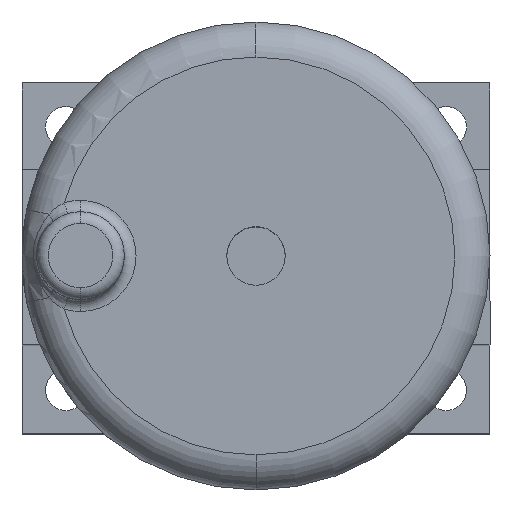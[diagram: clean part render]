
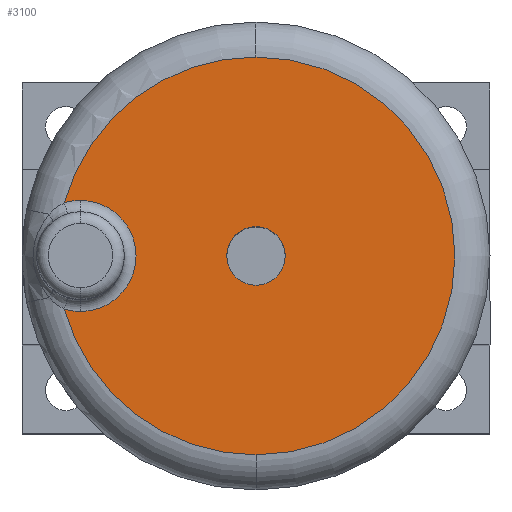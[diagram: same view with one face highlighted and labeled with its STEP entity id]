
A CAD part, top view. The second image highlights one B-rep face of the part: STEP entity #3100.
In plain terms, the highlighted planar face has unit normal (0, 0, 1) as drawn and (1, 0, 0) by its records, which use the part's own axes.
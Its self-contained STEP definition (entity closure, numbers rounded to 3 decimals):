
#141 = VERTEX_POINT ( 'NONE', #299 ) ;
#144 = ORIENTED_EDGE ( 'NONE', *, *, #1698, .T. ) ;
#150 = EDGE_CURVE ( 'NONE', #3506, #1861, #3327, .T. ) ;
#180 = AXIS2_PLACEMENT_3D ( 'NONE', #3204, #1218, #2363 ) ;
#195 = DIRECTION ( 'NONE',  ( 0., 0., 1. ) ) ;
#198 = CARTESIAN_POINT ( 'NONE',  ( 46., 0., 0. ) ) ;
#210 = DIRECTION ( 'NONE',  ( 1., 0., 0. ) ) ;
#253 = CIRCLE ( 'NONE', #3125, 9.5 ) ;
#299 = CARTESIAN_POINT ( 'NONE',  ( 46., 30., 9.5 ) ) ;
#320 = CARTESIAN_POINT ( 'NONE',  ( 46., 30., 0. ) ) ;
#381 = DIRECTION ( 'NONE',  ( 1., 0., 0. ) ) ;
#522 = CIRCLE ( 'NONE', #528, 5. ) ;
#528 = AXIS2_PLACEMENT_3D ( 'NONE', #2403, #2967, #2147 ) ;
#559 = CARTESIAN_POINT ( 'NONE',  ( 46., 0., 0. ) ) ;
#801 = CIRCLE ( 'NONE', #2145, 5. ) ;
#827 = DIRECTION ( 'NONE',  ( 0., 0., 1. ) ) ;
#848 = CIRCLE ( 'NONE', #980, 9.5 ) ;
#855 = ORIENTED_EDGE ( 'NONE', *, *, #3592, .F. ) ;
#868 = DIRECTION ( 'NONE',  ( 0., 0., 1. ) ) ;
#941 = CIRCLE ( 'NONE', #1541, 34. ) ;
#965 = EDGE_LOOP ( 'NONE', ( #855, #2883 ) ) ;
#980 = AXIS2_PLACEMENT_3D ( 'NONE', #320, #2227, #868 ) ;
#1065 = VERTEX_POINT ( 'NONE', #3232 ) ;
#1082 = DIRECTION ( 'NONE',  ( -1., 0., 0. ) ) ;
#1137 = DIRECTION ( 'NONE',  ( 1., 0., 0. ) ) ;
#1218 = DIRECTION ( 'NONE',  ( -1., 0., 0. ) ) ;
#1227 = CARTESIAN_POINT ( 'NONE',  ( 46., 30., -9.5 ) ) ;
#1291 = FACE_OUTER_BOUND ( 'NONE', #1431, .T. ) ;
#1348 = DIRECTION ( 'NONE',  ( 0., 0., -1. ) ) ;
#1380 = EDGE_CURVE ( 'NONE', #2438, #3466, #522, .T. ) ;
#1431 = EDGE_LOOP ( 'NONE', ( #1796, #1844, #2713, #2382, #2776, #144 ) ) ;
#1507 = EDGE_CURVE ( 'NONE', #1861, #3518, #2664, .T. ) ;
#1541 = AXIS2_PLACEMENT_3D ( 'NONE', #198, #210, #3572 ) ;
#1626 = AXIS2_PLACEMENT_3D ( 'NONE', #559, #1082, #2770 ) ;
#1668 = CARTESIAN_POINT ( 'NONE',  ( 46., 0., 0. ) ) ;
#1698 = EDGE_CURVE ( 'NONE', #141, #3506, #2928, .T. ) ;
#1700 = VERTEX_POINT ( 'NONE', #1227 ) ;
#1796 = ORIENTED_EDGE ( 'NONE', *, *, #150, .T. ) ;
#1797 = EDGE_CURVE ( 'NONE', #1700, #141, #253, .T. ) ;
#1829 = FACE_BOUND ( 'NONE', #965, .T. ) ;
#1844 = ORIENTED_EDGE ( 'NONE', *, *, #1507, .T. ) ;
#1861 = VERTEX_POINT ( 'NONE', #2780 ) ;
#1950 = EDGE_CURVE ( 'NONE', #1065, #1700, #848, .T. ) ;
#2037 = DIRECTION ( 'NONE',  ( 0., 0., 1. ) ) ;
#2053 = AXIS2_PLACEMENT_3D ( 'NONE', #1668, #381, #2037 ) ;
#2123 = CARTESIAN_POINT ( 'NONE',  ( 46., 0., -5. ) ) ;
#2142 = EDGE_CURVE ( 'NONE', #3518, #1065, #941, .T. ) ;
#2145 = AXIS2_PLACEMENT_3D ( 'NONE', #2499, #2209, #1348 ) ;
#2147 = DIRECTION ( 'NONE',  ( 0., 0., -1. ) ) ;
#2209 = DIRECTION ( 'NONE',  ( 1., 0., 0. ) ) ;
#2227 = DIRECTION ( 'NONE',  ( -1., 0., 0. ) ) ;
#2363 = DIRECTION ( 'NONE',  ( 0., 0., 1. ) ) ;
#2382 = ORIENTED_EDGE ( 'NONE', *, *, #1950, .T. ) ;
#2403 = CARTESIAN_POINT ( 'NONE',  ( 46., 0., 0. ) ) ;
#2419 = CARTESIAN_POINT ( 'NONE',  ( 46., 0., -34. ) ) ;
#2438 = VERTEX_POINT ( 'NONE', #3553 ) ;
#2499 = CARTESIAN_POINT ( 'NONE',  ( 46., 0., 0. ) ) ;
#2664 = CIRCLE ( 'NONE', #2053, 34. ) ;
#2713 = ORIENTED_EDGE ( 'NONE', *, *, #2142, .T. ) ;
#2727 = AXIS2_PLACEMENT_3D ( 'NONE', #2843, #1137, #827 ) ;
#2739 = CARTESIAN_POINT ( 'NONE',  ( 46., 32.763, 9.089 ) ) ;
#2759 = PLANE ( 'NONE',  #1626 ) ;
#2770 = DIRECTION ( 'NONE',  ( 0., 0., 1. ) ) ;
#2776 = ORIENTED_EDGE ( 'NONE', *, *, #1797, .T. ) ;
#2780 = CARTESIAN_POINT ( 'NONE',  ( 46., 0., 34. ) ) ;
#2843 = CARTESIAN_POINT ( 'NONE',  ( 46., 0., 0. ) ) ;
#2883 = ORIENTED_EDGE ( 'NONE', *, *, #1380, .F. ) ;
#2928 = CIRCLE ( 'NONE', #180, 9.5 ) ;
#2967 = DIRECTION ( 'NONE',  ( 1., 0., 0. ) ) ;
#3010 = CARTESIAN_POINT ( 'NONE',  ( 46., 30., 0. ) ) ;
#3100 = ADVANCED_FACE ( 'NONE', ( #1291, #1829 ), #2759, .F. ) ;
#3125 = AXIS2_PLACEMENT_3D ( 'NONE', #3010, #3556, #195 ) ;
#3204 = CARTESIAN_POINT ( 'NONE',  ( 46., 30., 0. ) ) ;
#3232 = CARTESIAN_POINT ( 'NONE',  ( 46., 32.763, -9.089 ) ) ;
#3327 = CIRCLE ( 'NONE', #2727, 34. ) ;
#3466 = VERTEX_POINT ( 'NONE', #2123 ) ;
#3506 = VERTEX_POINT ( 'NONE', #2739 ) ;
#3518 = VERTEX_POINT ( 'NONE', #2419 ) ;
#3553 = CARTESIAN_POINT ( 'NONE',  ( 46., 0., 5. ) ) ;
#3556 = DIRECTION ( 'NONE',  ( -1., 0., 0. ) ) ;
#3572 = DIRECTION ( 'NONE',  ( 0., 0., 1. ) ) ;
#3592 = EDGE_CURVE ( 'NONE', #3466, #2438, #801, .T. ) ;
